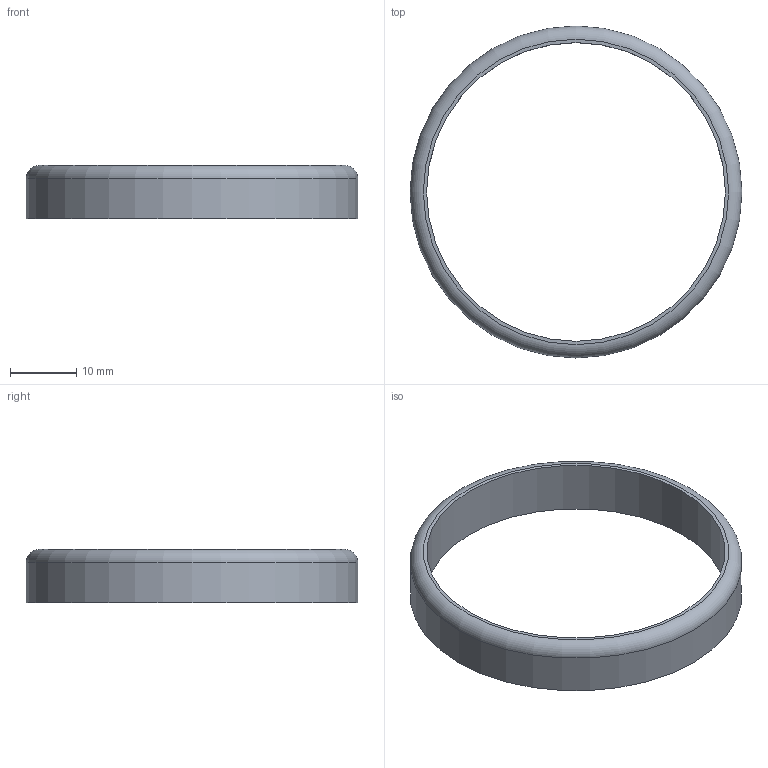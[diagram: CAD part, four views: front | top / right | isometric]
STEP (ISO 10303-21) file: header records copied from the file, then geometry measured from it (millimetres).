
FILE_DESCRIPTION(/* description */ ('STEP AP242 Edition 2','CAx-IF Rec.Pracs.---Representation and Presentation of Product Manufacturing Information (PMI)---4.0---2014-10-13','CAx-IF Rec.Pracs.---3D Tessellated Geometry---0.4---2014-09-14','2;1','CAx-IF Rec.Pracs.---User Defined Attributes---1.5---2016-08-15'),/* implementation_level */ '2;1');
FILE_NAME(/* name */ 'Assembly 1 - Part 13',/* time_stamp */ '2026-10-18T18:48:31Z',/* author */ (''),/* organization */ (''),/* preprocessor_version */ 'ST-DEVELOPER v20',/* originating_system */ 'ONSHAPE BY PTC INC, 1.222',/* authorisation */ ' ');
FILE_SCHEMA (('AP242_MANAGED_MODEL_BASED_3D_ENGINEERING_MIM_LF { 1 0 10303 442 3 1 4 }'));
Length unit declared in the file: metre
Products named in the file (1): Part 13
Bounding box: 50 x 50 x 8 mm (x, y, z)
Volume: 2852.1 mm3; surface area: 2997.1 mm2
Topology: 1 solids, 1 shells, 5 faces, 8 edges, 5 vertices
Faces by surface type: cylinder 2, plane 2, torus 1
Full cylindrical faces by diameter (mm): 45 x1, 50 x1
Entity records: 130 total; most frequent: DIRECTION 22, CARTESIAN_POINT 16, AXIS2_PLACEMENT_3D 11, ORIENTED_EDGE 10, EDGE_LOOP 10, FACE_BOUND 10, EDGE_CURVE 5, VERTEX_POINT 5
